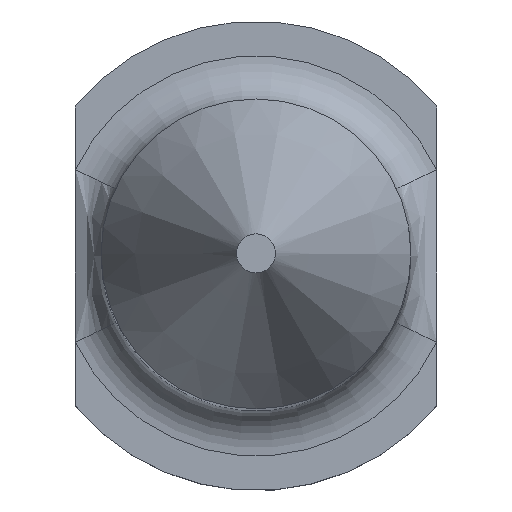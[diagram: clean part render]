
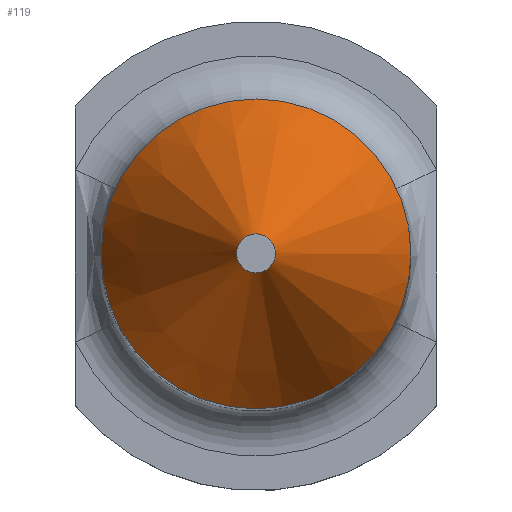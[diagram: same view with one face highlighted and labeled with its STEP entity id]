
A CAD part, top view. The second image highlights one B-rep face of the part: STEP entity #119.
In plain terms, the highlighted conical face has half-angle 25.346 degrees and reference radius 0.325 mm.
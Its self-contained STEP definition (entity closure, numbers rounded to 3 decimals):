
#101=CONICAL_SURFACE('',#331,0.325,25.346);
#108=FACE_BOUND('',#155,.T.);
#109=FACE_BOUND('',#156,.T.);
#119=ADVANCED_FACE('',(#108,#109),#101,.T.);
#155=EDGE_LOOP('',(#197));
#156=EDGE_LOOP('',(#198));
#175=CIRCLE('',#327,2.575);
#176=CIRCLE('',#329,0.325);
#197=ORIENTED_EDGE('',*,*,#275,.T.);
#198=ORIENTED_EDGE('',*,*,#276,.T.);
#255=VERTEX_POINT('',#463);
#256=VERTEX_POINT('',#466);
#275=EDGE_CURVE('',#255,#255,#175,.T.);
#276=EDGE_CURVE('',#256,#256,#176,.T.);
#327=AXIS2_PLACEMENT_3D('',#462,#366,#367);
#329=AXIS2_PLACEMENT_3D('',#465,#370,#371);
#331=AXIS2_PLACEMENT_3D('',#468,#374,#375);
#366=DIRECTION('',(0.,0.,1.));
#367=DIRECTION('',(1.,0.,0.));
#370=DIRECTION('',(0.,0.,-1.));
#371=DIRECTION('',(-1.,0.,0.));
#374=DIRECTION('',(0.,0.,-1.));
#375=DIRECTION('',(-1.,0.,0.));
#462=CARTESIAN_POINT('',(0.,0.,20.4));
#463=CARTESIAN_POINT('',(2.575,0.,20.4));
#465=CARTESIAN_POINT('',(0.,0.,25.15));
#466=CARTESIAN_POINT('',(-0.325,0.,25.15));
#468=CARTESIAN_POINT('',(0.,0.,25.15));
